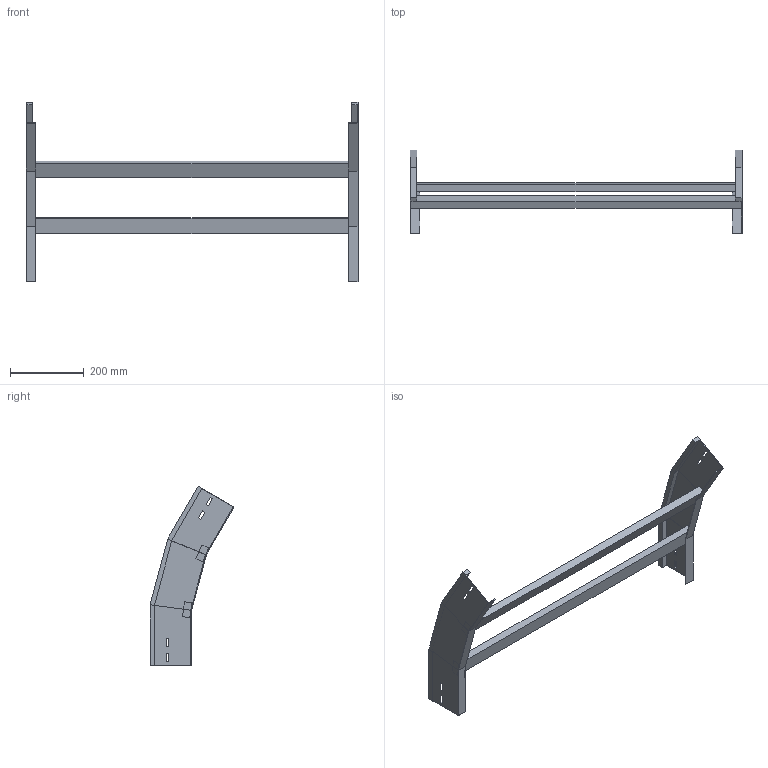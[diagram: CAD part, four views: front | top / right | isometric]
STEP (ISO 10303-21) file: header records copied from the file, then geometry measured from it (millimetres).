
FILE_DESCRIPTION (( 'STEP AP214' ), '1' );
FILE_NAME ('A2_35B3J900.step', '2025-02-21T14:48:19', ( '' ), ( '' ), 'SwSTEP 2.0', 'SolidWorks 2023', '' );
FILE_SCHEMA (( 'AUTOMOTIVE_DESIGN' ));
Length unit declared in the file: millimetre
Products named in the file (3): A2_35B3J900; TRAVERSINO_900; LONGH.DISCESA_30°_H112.5_R300
Assembly tree (5 placements, depth 2):
  A2_35B3J900
    LONGH.DISCESA_30°_H112.5_R300  x2
    TRAVERSINO_900  x3
Bounding box: 900 x 227.62 x 485.87 mm (x, y, z)
Volume: 2634704.7 mm3; surface area: 630658.8 mm2
Topology: 5 solids, 5 shells, 102 faces, 244 edges, 152 vertices
Faces by surface type: plane 102
Entity records: 1480 total; most frequent: CARTESIAN_POINT 244, ORIENTED_EDGE 232, DIRECTION 228, EDGE_CURVE 116, VECTOR 116, LINE 116, VERTEX_POINT 72, EDGE_LOOP 56
